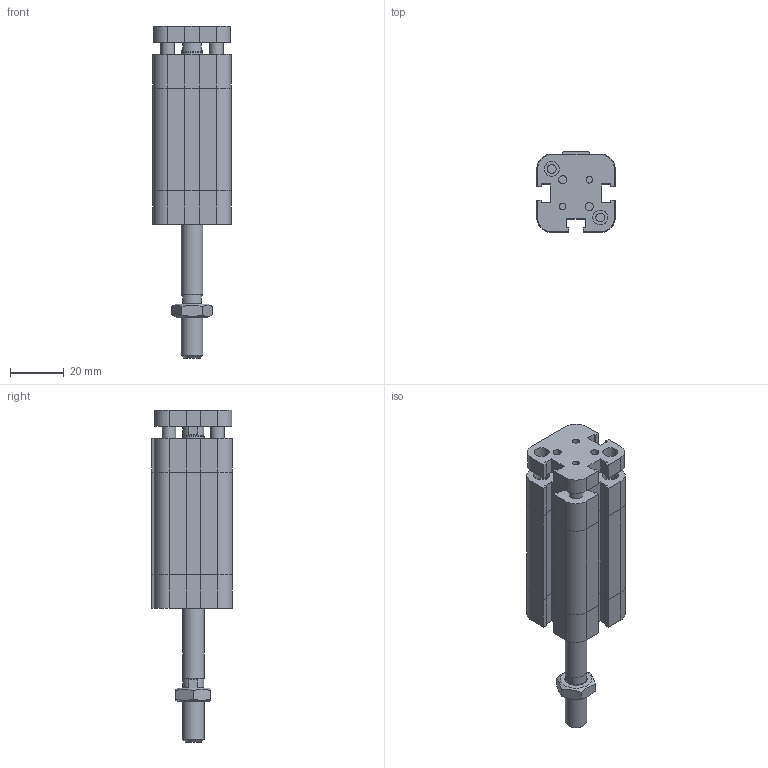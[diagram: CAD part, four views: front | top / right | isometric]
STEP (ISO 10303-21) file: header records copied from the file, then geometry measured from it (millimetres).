
FILE_DESCRIPTION((''),'2;1');
FILE_NAME('I:\Area Tecnica\Disegni\VARIE-3D\Componenti\EUROPE\15##_###_####_09_#\1581_16_0025_09_1.iam.stp','2009-04-20T15:42:39',(''),(''),'Autodesk Inventor 2009','Autodesk Inventor 2009','');
FILE_SCHEMA(('AUTOMOTIVE_DESIGN { 1 0 10303 214 1 1 1 1 }'));
Length unit declared in the file: millimetre
Products named in the file (4): 1581_16_0025_09_1; 1581_16_0025_08_1_C; 1561_16_0025_09_1_SA; DBM8
Assembly tree (3 placements, depth 2):
  1581_16_0025_09_1
    1581_16_0025_08_1_C
    1561_16_0025_09_1_SA
    DBM8
Bounding box: 29 x 30 x 123 mm (x, y, z)
Volume: 52683.9 mm3; surface area: 21644 mm2
Topology: 3 solids, 3 shells, 223 faces, 523 edges, 326 vertices
Faces by surface type: plane 144, bspline 46, cylinder 23, cone 10
Full cylindrical faces by diameter (mm): 5 x2, 6.5 x1, 7.8 x2, 8 x2
Entity records: 6544 total; most frequent: CARTESIAN_POINT 1548, ORIENTED_EDGE 934, DIRECTION 916, EDGE_CURVE 467, VECTOR 346, LINE 346, VERTEX_POINT 309, EDGE_LOOP 298
